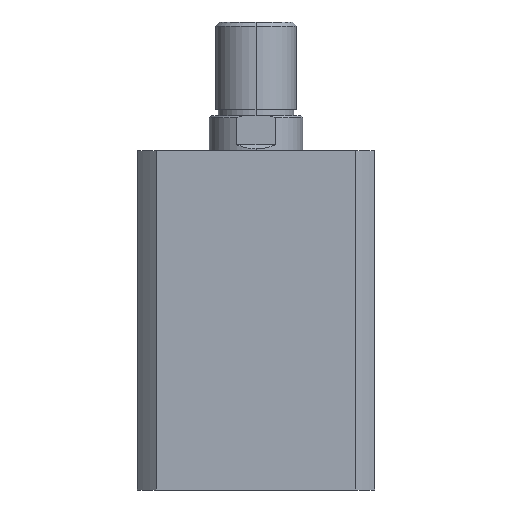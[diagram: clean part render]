
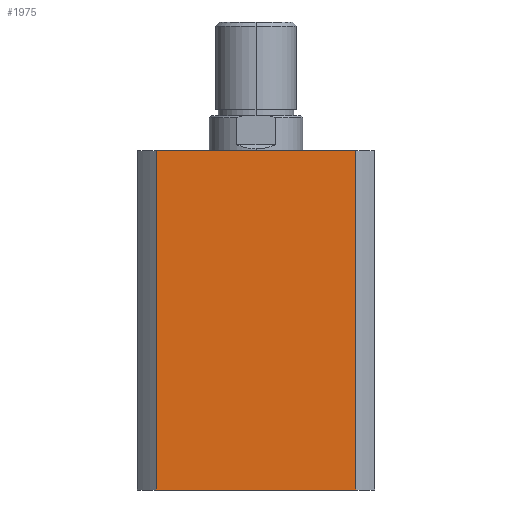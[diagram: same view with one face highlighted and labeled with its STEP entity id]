
A CAD part, left-side view. The second image highlights one B-rep face of the part: STEP entity #1975.
In plain terms, the highlighted planar face has unit normal (-1, 0, 0).
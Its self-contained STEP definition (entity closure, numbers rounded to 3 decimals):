
#71 = CARTESIAN_POINT ( 'NONE',  ( -57., -47.971, 163. ) ) ;
#72 = DIRECTION ( 'NONE',  ( 0., 0., -1. ) ) ;
#82 = CARTESIAN_POINT ( 'NONE',  ( -57., 0., 163. ) ) ;
#89 = DIRECTION ( 'NONE',  ( 0., -1., 0. ) ) ;
#100 = CARTESIAN_POINT ( 'NONE',  ( -57., 47.971, 163. ) ) ;
#101 = DIRECTION ( 'NONE',  ( 0., 0., -1. ) ) ;
#116 = EDGE_LOOP ( 'NONE', ( #3655, #3656, #3657, #3658 ) ) ;
#310 = LINE ( 'NONE', #82, #325 ) ;
#316 = LINE ( 'NONE', #71, #318 ) ;
#318 = VECTOR ( 'NONE', #72, 1000. ) ;
#325 = VECTOR ( 'NONE', #89, 1000. ) ;
#341 = LINE ( 'NONE', #100, #344 ) ;
#344 = VECTOR ( 'NONE', #101, 1000. ) ;
#730 = LINE ( 'NONE', #1604, #733 ) ;
#733 = VECTOR ( 'NONE', #1597, 1000. ) ;
#1014 = AXIS2_PLACEMENT_3D ( 'NONE', #4868, #4860, #4859 ) ;
#1308 = EDGE_CURVE ( 'NONE', #3874, #3895, #730, .T. ) ;
#1597 = DIRECTION ( 'NONE',  ( 0., -1., 0. ) ) ;
#1604 = CARTESIAN_POINT ( 'NONE',  ( -57., 0., 0. ) ) ;
#1975 = ADVANCED_FACE ( 'NONE', ( #2475 ), #4863, .F. ) ;
#2475 = FACE_OUTER_BOUND ( 'NONE', #116, .T. ) ;
#3237 = EDGE_CURVE ( 'NONE', #3950, #3895, #316, .T. ) ;
#3241 = EDGE_CURVE ( 'NONE', #4021, #3950, #310, .T. ) ;
#3252 = EDGE_CURVE ( 'NONE', #4021, #3874, #341, .T. ) ;
#3363 = CARTESIAN_POINT ( 'NONE',  ( -57., 47.971, 163. ) ) ;
#3655 = ORIENTED_EDGE ( 'NONE', *, *, #1308, .T. ) ;
#3656 = ORIENTED_EDGE ( 'NONE', *, *, #3237, .F. ) ;
#3657 = ORIENTED_EDGE ( 'NONE', *, *, #3241, .F. ) ;
#3658 = ORIENTED_EDGE ( 'NONE', *, *, #3252, .T. ) ;
#3874 = VERTEX_POINT ( 'NONE', #5176 ) ;
#3895 = VERTEX_POINT ( 'NONE', #5149 ) ;
#3950 = VERTEX_POINT ( 'NONE', #5120 ) ;
#4021 = VERTEX_POINT ( 'NONE', #3363 ) ;
#4859 = DIRECTION ( 'NONE',  ( 0., 0., -1. ) ) ;
#4860 = DIRECTION ( 'NONE',  ( 1., 0., 0. ) ) ;
#4863 = PLANE ( 'NONE',  #1014 ) ;
#4868 = CARTESIAN_POINT ( 'NONE',  ( -57., 0., 163. ) ) ;
#5120 = CARTESIAN_POINT ( 'NONE',  ( -57., -47.971, 163. ) ) ;
#5149 = CARTESIAN_POINT ( 'NONE',  ( -57., -47.971, 0. ) ) ;
#5176 = CARTESIAN_POINT ( 'NONE',  ( -57., 47.971, 0. ) ) ;
